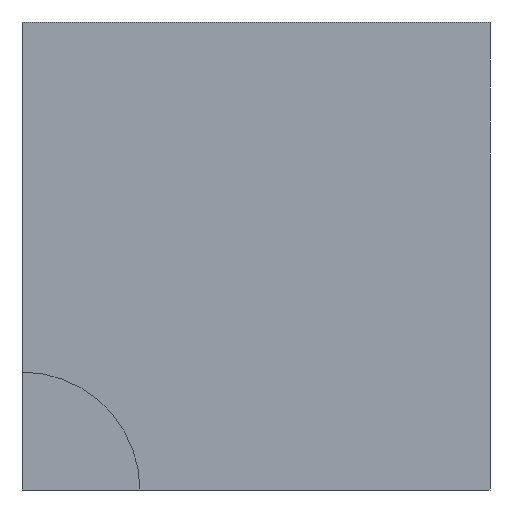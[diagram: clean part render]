
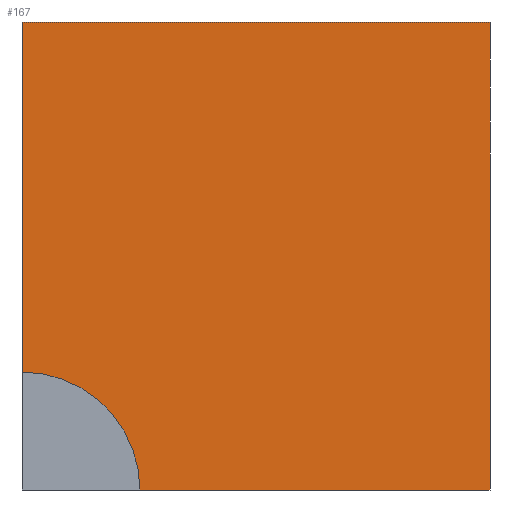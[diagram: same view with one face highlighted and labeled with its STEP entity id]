
A CAD part, front view. The second image highlights one B-rep face of the part: STEP entity #167.
In plain terms, the highlighted planar face has unit normal (0, -1, 0).
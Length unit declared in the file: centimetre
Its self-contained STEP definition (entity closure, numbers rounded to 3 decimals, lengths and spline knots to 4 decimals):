
#11 = VERTEX_POINT ( 'NONE', #292 ) ;
#20 = CARTESIAN_POINT ( 'NONE',  ( 0., 0., 1000. ) ) ;
#23 = VERTEX_POINT ( 'NONE', #64 ) ;
#35 = CARTESIAN_POINT ( 'NONE',  ( 1000., 0., 1000. ) ) ;
#57 = VERTEX_POINT ( 'NONE', #116 ) ;
#64 = CARTESIAN_POINT ( 'NONE',  ( 0., 0., 251.9758 ) ) ;
#66 = VECTOR ( 'NONE', #276, 100. ) ;
#79 = ORIENTED_EDGE ( 'NONE', *, *, #498, .T. ) ;
#85 = CARTESIAN_POINT ( 'NONE',  ( 0., 0., 1000. ) ) ;
#87 = VERTEX_POINT ( 'NONE', #85 ) ;
#91 = DIRECTION ( 'NONE',  ( 0., -1., 0. ) ) ;
#116 = CARTESIAN_POINT ( 'NONE',  ( 251.9758, 0., 0. ) ) ;
#129 = VECTOR ( 'NONE', #319, 100. ) ;
#133 = CARTESIAN_POINT ( 'NONE',  ( 0., 0., 0. ) ) ;
#160 = ORIENTED_EDGE ( 'NONE', *, *, #262, .F. ) ;
#167 = ADVANCED_FACE ( 'NONE', ( #473 ), #518, .F. ) ;
#189 = DIRECTION ( 'NONE',  ( 0., 1., 0. ) ) ;
#197 = DIRECTION ( 'NONE',  ( 0., 0., -1. ) ) ;
#206 = ORIENTED_EDGE ( 'NONE', *, *, #333, .F. ) ;
#207 = EDGE_LOOP ( 'NONE', ( #426, #160, #79, #206, #464 ) ) ;
#234 = CIRCLE ( 'NONE', #592, 251.9758 ) ;
#261 = CARTESIAN_POINT ( 'NONE',  ( 1000., 0., 1000. ) ) ;
#262 = EDGE_CURVE ( 'NONE', #57, #23, #234, .T. ) ;
#273 = DIRECTION ( 'NONE',  ( 0., 0., 1. ) ) ;
#276 = DIRECTION ( 'NONE',  ( 0., 0., -1. ) ) ;
#292 = CARTESIAN_POINT ( 'NONE',  ( 1000., 0., 0. ) ) ;
#319 = DIRECTION ( 'NONE',  ( 1., 0., 0. ) ) ;
#333 = EDGE_CURVE ( 'NONE', #489, #11, #432, .T. ) ;
#368 = EDGE_CURVE ( 'NONE', #87, #23, #440, .T. ) ;
#377 = CARTESIAN_POINT ( 'NONE',  ( 0., 0., 1000. ) ) ;
#417 = CARTESIAN_POINT ( 'NONE',  ( 0., 0., 0. ) ) ;
#426 = ORIENTED_EDGE ( 'NONE', *, *, #368, .T. ) ;
#432 = LINE ( 'NONE', #35, #66 ) ;
#440 = LINE ( 'NONE', #20, #517 ) ;
#464 = ORIENTED_EDGE ( 'NONE', *, *, #579, .F. ) ;
#471 = CARTESIAN_POINT ( 'NONE',  ( 0., 0., 1000. ) ) ;
#473 = FACE_OUTER_BOUND ( 'NONE', #207, .T. ) ;
#479 = AXIS2_PLACEMENT_3D ( 'NONE', #377, #189, #273 ) ;
#489 = VERTEX_POINT ( 'NONE', #261 ) ;
#498 = EDGE_CURVE ( 'NONE', #57, #11, #558, .T. ) ;
#517 = VECTOR ( 'NONE', #550, 100. ) ;
#518 = PLANE ( 'NONE',  #479 ) ;
#542 = VECTOR ( 'NONE', #560, 100. ) ;
#550 = DIRECTION ( 'NONE',  ( 0., 0., -1. ) ) ;
#558 = LINE ( 'NONE', #417, #129 ) ;
#560 = DIRECTION ( 'NONE',  ( 1., 0., 0. ) ) ;
#579 = EDGE_CURVE ( 'NONE', #87, #489, #610, .T. ) ;
#592 = AXIS2_PLACEMENT_3D ( 'NONE', #133, #91, #197 ) ;
#610 = LINE ( 'NONE', #471, #542 ) ;
